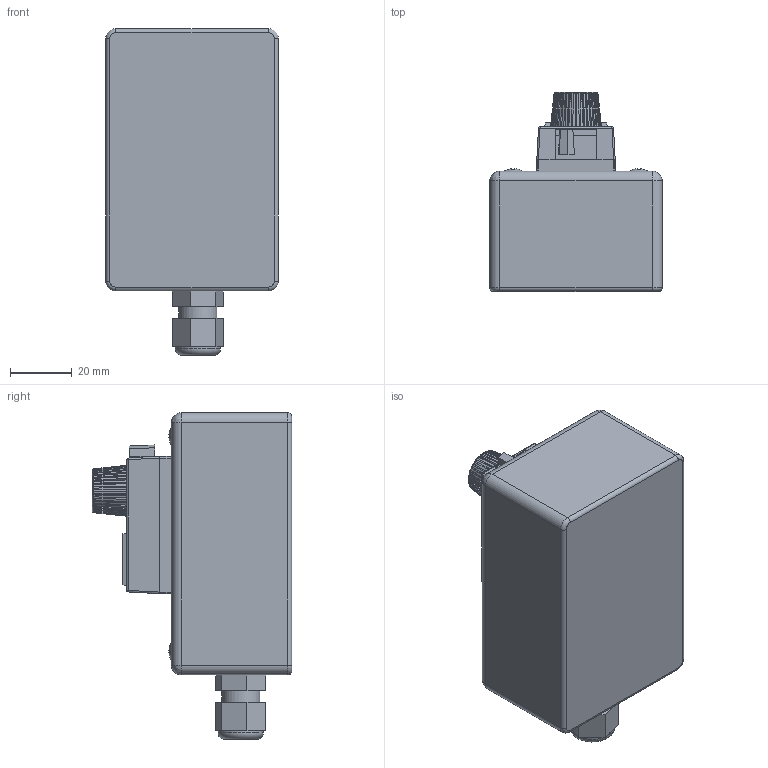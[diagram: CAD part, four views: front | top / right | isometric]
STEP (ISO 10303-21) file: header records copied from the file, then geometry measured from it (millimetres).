
FILE_DESCRIPTION(/* description */ (''),/* implementation_level */ '2;1');
FILE_NAME(/* name */ 'U:/AirCom-Produktdokumentation/Proportionaldruckregler/PPB/Zeichnungen/CAD-Aircom/3D/B-PPB-DC2.step',/* time_stamp */ '2016-09-19T16:38:44+02:00',/* author */ (''),/* organization */ (''),/* preprocessor_version */ 'ST-DEVELOPER v16.5',/* originating_system */ 'Autodesk Translation Framework v5.1.0.2740',/* authorisation */ '');
FILE_SCHEMA (('AUTOMOTIVE_DESIGN { 1 0 10303 214 3 1 1 }'));
Length unit declared in the file: centimetre
Products named in the file (6): DC2-10TI; H345A; H1073; R505; DC2-10T BOARD; H1016-A
Assembly tree (5 placements, depth 2):
  DC2-10TI
    H345A
    H1073
    R505
    DC2-10T BOARD
    H1016-A
Bounding box: 55.88 x 64.58 x 105.79 mm (x, y, z)
Volume: 71750.2 mm3; surface area: 56282.1 mm2
Topology: 11 solids, 11 shells, 672 faces, 1676 edges, 1074 vertices
Faces by surface type: plane 499, cylinder 88, bspline 47, torus 24, sphere 8, cone 6
Full cylindrical faces by diameter (mm): 1.905 x3, 2.489 x4, 2.54 x1, 3.175 x5, 3.505 x4, 6.35 x2, 6.858 x4, 7.112 x1, 7.925 x4, 9.423 x1, 10.16 x1, 10.312 x1, 12.344 x1, 12.395 x2, 12.7 x1, 14.656 x1, 17.704 x1
Entity records: 27598 total; most frequent: CARTESIAN_POINT 11398, DIRECTION 3217, ORIENTED_EDGE 3204, EDGE_CURVE 1602, AXIS2_PLACEMENT_3D 1132, VERTEX_POINT 1061, LINE 953, VECTOR 953
